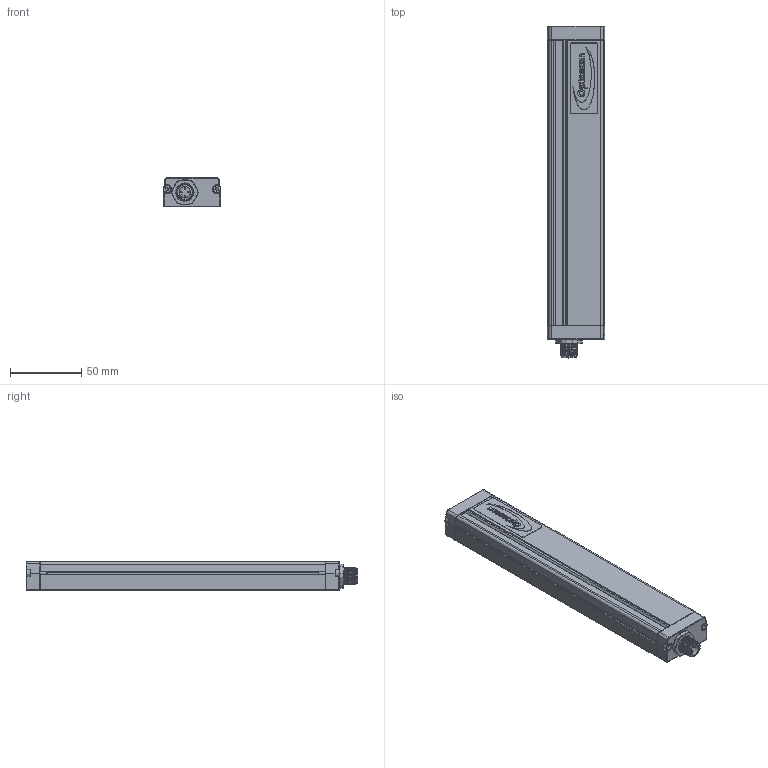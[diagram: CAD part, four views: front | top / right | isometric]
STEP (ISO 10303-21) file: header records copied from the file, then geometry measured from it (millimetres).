
FILE_DESCRIPTION(/* description */ (''),/* implementation_level */ '2;1');
FILE_NAME(/* name */ 'C:\Users\Andrea\SynologyDrive\Optoscan\Libreria Componenti\00 - Barriere\Barriera sorgente\Argo_200_TX.stp',/* time_stamp */ '2022-06-30T15:33:06+02:00',/* author */ ('Andrea'),/* organization */ (''),/* preprocessor_version */ 'ST-DEVELOPER v18.1',/* originating_system */ 'Autodesk Inventor 2022',/* authorisation */ '');
FILE_SCHEMA (('AUTOMOTIVE_DESIGN { 1 0 10303 214 3 1 1 }'));
Length unit declared in the file: millimetre
Products named in the file (1): Argo_200_TX
Bounding box: 40.5 x 232.8 x 20.75 mm (x, y, z)
Volume: 50134.8 mm3; surface area: 62123.3 mm2
Topology: 1 solids, 2 shells, 757 faces, 2033 edges, 1287 vertices
Faces by surface type: plane 338, cylinder 216, bspline 115, torus 74, cone 8, sphere 6
Full cylindrical faces by diameter (mm): 1 x12, 1.2 x4, 2.459 x4, 2.5 x4, 3 x4, 3.5 x4, 5.5 x4, 8 x1, 10 x1, 10.5 x2, 11.75 x8, 12 x1, 12.3 x3, 14.5 x1, 16.7 x1, 17.5 x1
Entity records: 30483 total; most frequent: CARTESIAN_POINT 11236, ORIENTED_EDGE 4050, DIRECTION 3531, EDGE_CURVE 2025, VERTEX_POINT 1287, AXIS2_PLACEMENT_3D 1230, LINE 1071, VECTOR 1071
